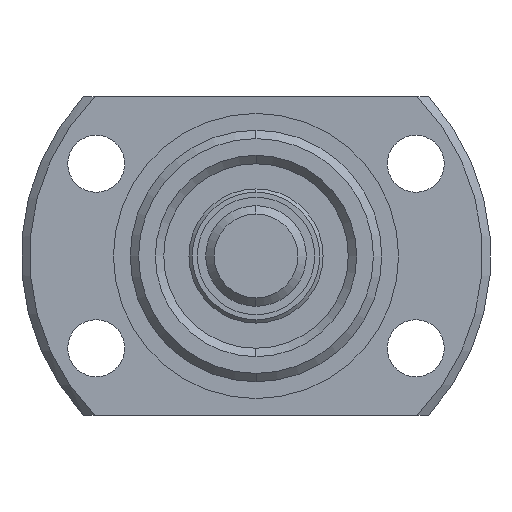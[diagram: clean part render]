
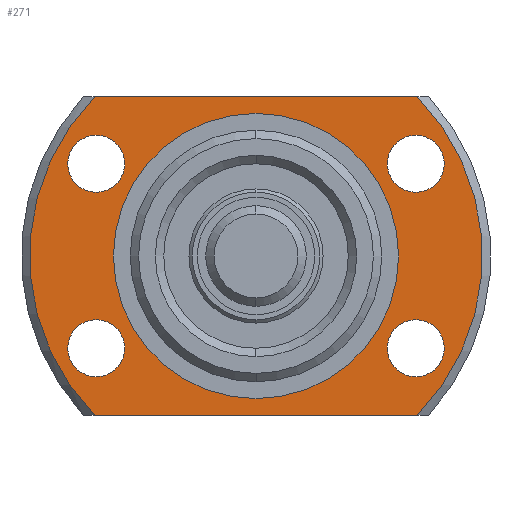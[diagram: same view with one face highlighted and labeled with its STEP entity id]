
A CAD part, left-side view. The second image highlights one B-rep face of the part: STEP entity #271.
In plain terms, the highlighted planar face has unit normal (-1, 0, 0).
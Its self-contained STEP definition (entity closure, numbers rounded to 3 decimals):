
#30 = CARTESIAN_POINT ( 'NONE',  ( -5., 13.5, -9.5 ) ) ;
#31 = DIRECTION ( 'NONE',  ( 0., 0., 1. ) ) ;
#32 = DIRECTION ( 'NONE',  ( -1., 0., 0. ) ) ;
#33 = CARTESIAN_POINT ( 'NONE',  ( -5., 9.526, -5.5 ) ) ;
#34 = DIRECTION ( 'NONE',  ( 0., 1., 0. ) ) ;
#35 = CARTESIAN_POINT ( 'NONE',  ( -5., 13.5, 9.5 ) ) ;
#36 = DIRECTION ( 'NONE',  ( 0., 0., 1. ) ) ;
#37 = DIRECTION ( 'NONE',  ( -1., 0., 0. ) ) ;
#38 = CARTESIAN_POINT ( 'NONE',  ( -5., 9.526, 5.5 ) ) ;
#40 = DIRECTION ( 'NONE',  ( 0., 0., 1. ) ) ;
#41 = DIRECTION ( 'NONE',  ( -1., 0., 0. ) ) ;
#42 = CARTESIAN_POINT ( 'NONE',  ( -5., -9.526, 5.5 ) ) ;
#43 = DIRECTION ( 'NONE',  ( 0., 0., 1. ) ) ;
#46 = DIRECTION ( 'NONE',  ( -1., 0., 0. ) ) ;
#48 = CARTESIAN_POINT ( 'NONE',  ( -5., -9.526, -5.5 ) ) ;
#57 = DIRECTION ( 'NONE',  ( 0., 0., -1. ) ) ;
#58 = DIRECTION ( 'NONE',  ( 1., 0., 0. ) ) ;
#59 = CARTESIAN_POINT ( 'NONE',  ( -5., 0., 0. ) ) ;
#68 = DIRECTION ( 'NONE',  ( 0., 0., -1. ) ) ;
#72 = DIRECTION ( 'NONE',  ( 1., 0., 0. ) ) ;
#73 = CARTESIAN_POINT ( 'NONE',  ( -5., 0., 0. ) ) ;
#110 = DIRECTION ( 'NONE',  ( 0., 0., -1. ) ) ;
#112 = DIRECTION ( 'NONE',  ( 1., 0., 0. ) ) ;
#113 = CARTESIAN_POINT ( 'NONE',  ( -5., 0., 0. ) ) ;
#271 = ADVANCED_FACE ( 'NONE', ( #2695, #2696, #2705, #2720, #2693, #2697 ), #1883, .T. ) ;
#587 = AXIS2_PLACEMENT_3D ( 'NONE', #1263, #1261, #1260 ) ;
#588 = AXIS2_PLACEMENT_3D ( 'NONE', #1251, #1250, #1249 ) ;
#590 = AXIS2_PLACEMENT_3D ( 'NONE', #1240, #1238, #1237 ) ;
#592 = AXIS2_PLACEMENT_3D ( 'NONE', #1223, #1222, #1221 ) ;
#598 = AXIS2_PLACEMENT_3D ( 'NONE', #113, #112, #110 ) ;
#614 = AXIS2_PLACEMENT_3D ( 'NONE', #73, #72, #68 ) ;
#615 = AXIS2_PLACEMENT_3D ( 'NONE', #59, #58, #57 ) ;
#616 = AXIS2_PLACEMENT_3D ( 'NONE', #48, #46, #43 ) ;
#617 = AXIS2_PLACEMENT_3D ( 'NONE', #42, #41, #40 ) ;
#618 = AXIS2_PLACEMENT_3D ( 'NONE', #38, #37, #36 ) ;
#619 = AXIS2_PLACEMENT_3D ( 'NONE', #33, #32, #31 ) ;
#620 = AXIS2_PLACEMENT_3D ( 'NONE', #727, #724, #722 ) ;
#670 = CARTESIAN_POINT ( 'NONE',  ( -5., -9.592, 9.5 ) ) ;
#672 = CARTESIAN_POINT ( 'NONE',  ( -5., 9.592, 9.5 ) ) ;
#676 = CARTESIAN_POINT ( 'NONE',  ( -5., -9.592, -9.5 ) ) ;
#712 = DIRECTION ( 'NONE',  ( 0., -1., 0. ) ) ;
#722 = DIRECTION ( 'NONE',  ( 0., 0., -1. ) ) ;
#724 = DIRECTION ( 'NONE',  ( 1., 0., 0. ) ) ;
#727 = CARTESIAN_POINT ( 'NONE',  ( -5., 0., 0. ) ) ;
#737 = ORIENTED_EDGE ( 'NONE', *, *, #2489, .F. ) ;
#740 = ORIENTED_EDGE ( 'NONE', *, *, #2497, .T. ) ;
#741 = ORIENTED_EDGE ( 'NONE', *, *, #2487, .F. ) ;
#742 = ORIENTED_EDGE ( 'NONE', *, *, #2453, .T. ) ;
#743 = ORIENTED_EDGE ( 'NONE', *, *, #2496, .T. ) ;
#744 = ORIENTED_EDGE ( 'NONE', *, *, #2495, .F. ) ;
#745 = ORIENTED_EDGE ( 'NONE', *, *, #2441, .F. ) ;
#746 = ORIENTED_EDGE ( 'NONE', *, *, #2494, .F. ) ;
#747 = ORIENTED_EDGE ( 'NONE', *, *, #2437, .F. ) ;
#748 = ORIENTED_EDGE ( 'NONE', *, *, #2493, .F. ) ;
#749 = ORIENTED_EDGE ( 'NONE', *, *, #2433, .F. ) ;
#750 = ORIENTED_EDGE ( 'NONE', *, *, #2492, .F. ) ;
#751 = ORIENTED_EDGE ( 'NONE', *, *, #2431, .F. ) ;
#832 = EDGE_LOOP ( 'NONE', ( #741, #740, #737, #848 ) ) ;
#833 = EDGE_LOOP ( 'NONE', ( #749, #748 ) ) ;
#848 = ORIENTED_EDGE ( 'NONE', *, *, #2498, .T. ) ;
#1084 = CIRCLE ( 'NONE', #588, 1.7 ) ;
#1091 = CIRCLE ( 'NONE', #590, 1.7 ) ;
#1099 = CIRCLE ( 'NONE', #592, 1.7 ) ;
#1124 = CIRCLE ( 'NONE', #587, 1.7 ) ;
#1130 = VECTOR ( 'NONE', #712, 1000. ) ;
#1132 = VECTOR ( 'NONE', #34, 1000. ) ;
#1135 = LINE ( 'NONE', #35, #1132 ) ;
#1136 = CIRCLE ( 'NONE', #620, 8.5 ) ;
#1137 = CIRCLE ( 'NONE', #619, 1.7 ) ;
#1138 = CIRCLE ( 'NONE', #618, 1.7 ) ;
#1139 = LINE ( 'NONE', #30, #1130 ) ;
#1140 = CIRCLE ( 'NONE', #615, 13.5 ) ;
#1141 = CIRCLE ( 'NONE', #617, 1.7 ) ;
#1143 = CIRCLE ( 'NONE', #614, 13.5 ) ;
#1148 = CIRCLE ( 'NONE', #616, 1.7 ) ;
#1187 = CIRCLE ( 'NONE', #598, 8.5 ) ;
#1221 = DIRECTION ( 'NONE',  ( 0., 0., 1. ) ) ;
#1222 = DIRECTION ( 'NONE',  ( -1., 0., 0. ) ) ;
#1223 = CARTESIAN_POINT ( 'NONE',  ( -5., 9.526, -5.5 ) ) ;
#1237 = DIRECTION ( 'NONE',  ( 0., 0., 1. ) ) ;
#1238 = DIRECTION ( 'NONE',  ( -1., 0., 0. ) ) ;
#1240 = CARTESIAN_POINT ( 'NONE',  ( -5., 9.526, 5.5 ) ) ;
#1249 = DIRECTION ( 'NONE',  ( 0., 0., 1. ) ) ;
#1250 = DIRECTION ( 'NONE',  ( -1., 0., 0. ) ) ;
#1251 = CARTESIAN_POINT ( 'NONE',  ( -5., -9.526, 5.5 ) ) ;
#1254 = CARTESIAN_POINT ( 'NONE',  ( -5., 9.526, -7.2 ) ) ;
#1260 = DIRECTION ( 'NONE',  ( 0., 0., 1. ) ) ;
#1261 = DIRECTION ( 'NONE',  ( -1., 0., 0. ) ) ;
#1263 = CARTESIAN_POINT ( 'NONE',  ( -5., -9.526, -5.5 ) ) ;
#1301 = CARTESIAN_POINT ( 'NONE',  ( -5., 0., 8.5 ) ) ;
#1303 = CARTESIAN_POINT ( 'NONE',  ( -5., 0., -8.5 ) ) ;
#1334 = CARTESIAN_POINT ( 'NONE',  ( -5., 9.592, -9.5 ) ) ;
#1347 = CARTESIAN_POINT ( 'NONE',  ( -5., 9.526, 3.8 ) ) ;
#1349 = CARTESIAN_POINT ( 'NONE',  ( -5., -9.526, 3.8 ) ) ;
#1350 = CARTESIAN_POINT ( 'NONE',  ( -5., 9.526, 7.2 ) ) ;
#1354 = CARTESIAN_POINT ( 'NONE',  ( -5., 9.526, -3.8 ) ) ;
#1385 = CARTESIAN_POINT ( 'NONE',  ( -5., -9.526, -3.8 ) ) ;
#1398 = CARTESIAN_POINT ( 'NONE',  ( -5., -9.526, -7.2 ) ) ;
#1405 = CARTESIAN_POINT ( 'NONE',  ( -5., -9.526, 7.2 ) ) ;
#1451 = EDGE_LOOP ( 'NONE', ( #751, #750 ) ) ;
#1462 = EDGE_LOOP ( 'NONE', ( #747, #746 ) ) ;
#1481 = EDGE_LOOP ( 'NONE', ( #743, #742 ) ) ;
#1486 = EDGE_LOOP ( 'NONE', ( #745, #744 ) ) ;
#1558 = VERTEX_POINT ( 'NONE', #1254 ) ;
#1568 = VERTEX_POINT ( 'NONE', #1301 ) ;
#1569 = VERTEX_POINT ( 'NONE', #1303 ) ;
#1586 = VERTEX_POINT ( 'NONE', #1334 ) ;
#1591 = VERTEX_POINT ( 'NONE', #1347 ) ;
#1592 = VERTEX_POINT ( 'NONE', #1349 ) ;
#1593 = VERTEX_POINT ( 'NONE', #1350 ) ;
#1594 = VERTEX_POINT ( 'NONE', #1354 ) ;
#1603 = VERTEX_POINT ( 'NONE', #1385 ) ;
#1607 = VERTEX_POINT ( 'NONE', #1398 ) ;
#1609 = VERTEX_POINT ( 'NONE', #1405 ) ;
#1881 = CARTESIAN_POINT ( 'NONE',  ( -5., 13.5, 0. ) ) ;
#1883 = PLANE ( 'NONE',  #2310 ) ;
#1892 = DIRECTION ( 'NONE',  ( 0., 0., 1. ) ) ;
#1913 = DIRECTION ( 'NONE',  ( -1., 0., 0. ) ) ;
#2310 = AXIS2_PLACEMENT_3D ( 'NONE', #1881, #1913, #1892 ) ;
#2431 = EDGE_CURVE ( 'NONE', #1607, #1603, #1124, .T. ) ;
#2433 = EDGE_CURVE ( 'NONE', #1592, #1609, #1084, .T. ) ;
#2437 = EDGE_CURVE ( 'NONE', #1591, #1593, #1091, .T. ) ;
#2441 = EDGE_CURVE ( 'NONE', #1558, #1594, #1099, .T. ) ;
#2453 = EDGE_CURVE ( 'NONE', #1568, #1569, #1187, .T. ) ;
#2487 = EDGE_CURVE ( 'NONE', #2952, #2946, #1143, .T. ) ;
#2489 = EDGE_CURVE ( 'NONE', #1586, #2950, #1140, .T. ) ;
#2492 = EDGE_CURVE ( 'NONE', #1603, #1607, #1148, .T. ) ;
#2493 = EDGE_CURVE ( 'NONE', #1609, #1592, #1141, .T. ) ;
#2494 = EDGE_CURVE ( 'NONE', #1593, #1591, #1138, .T. ) ;
#2495 = EDGE_CURVE ( 'NONE', #1594, #1558, #1137, .T. ) ;
#2496 = EDGE_CURVE ( 'NONE', #1569, #1568, #1136, .T. ) ;
#2497 = EDGE_CURVE ( 'NONE', #2952, #2950, #1135, .T. ) ;
#2498 = EDGE_CURVE ( 'NONE', #1586, #2946, #1139, .T. ) ;
#2693 = FACE_BOUND ( 'NONE', #1481, .T. ) ;
#2695 = FACE_BOUND ( 'NONE', #1451, .T. ) ;
#2696 = FACE_BOUND ( 'NONE', #833, .T. ) ;
#2697 = FACE_OUTER_BOUND ( 'NONE', #832, .T. ) ;
#2705 = FACE_BOUND ( 'NONE', #1462, .T. ) ;
#2720 = FACE_BOUND ( 'NONE', #1486, .T. ) ;
#2946 = VERTEX_POINT ( 'NONE', #676 ) ;
#2950 = VERTEX_POINT ( 'NONE', #672 ) ;
#2952 = VERTEX_POINT ( 'NONE', #670 ) ;
